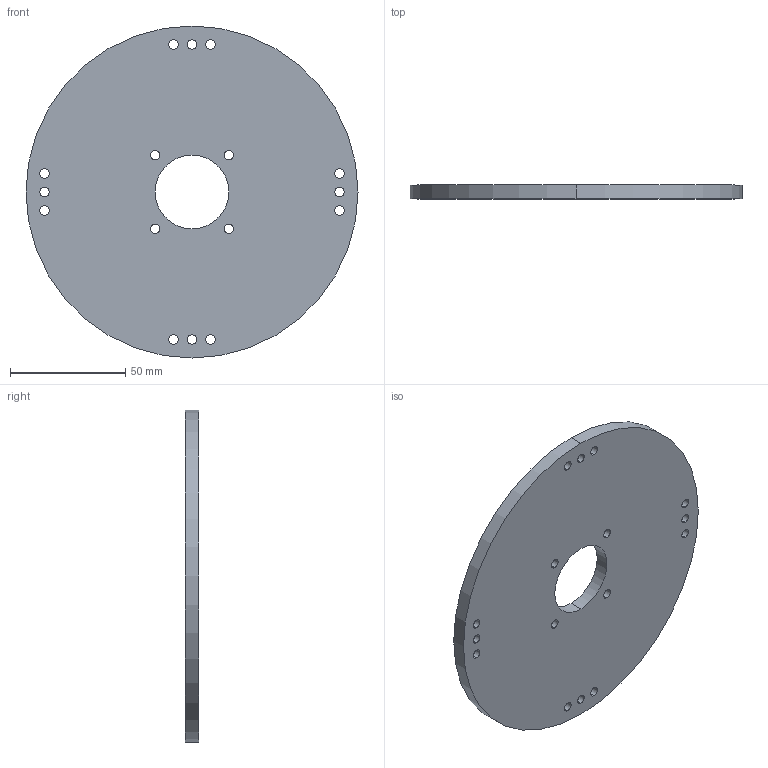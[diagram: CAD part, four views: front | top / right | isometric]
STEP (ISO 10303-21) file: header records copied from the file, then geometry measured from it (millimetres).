
FILE_DESCRIPTION (( 'STEP AP203' ), '1' );
FILE_NAME ('1920-0032-0144.STEP', '2021-05-27T18:33:40', ( '' ), ( '' ), 'SwSTEP 2.0', 'SolidWorks 2016', '' );
FILE_SCHEMA (( 'CONFIG_CONTROL_DESIGN' ));
Length unit declared in the file: millimetre
Products named in the file (1): 1920-0032-0144
Bounding box: 144 x 6 x 144 mm (x, y, z)
Volume: 91653.9 mm3; surface area: 35090.3 mm2
Topology: 1 solids, 1 shells, 38 faces, 108 edges, 72 vertices
Faces by surface type: cylinder 36, plane 2
Entity records: 1429 total; most frequent: DIRECTION 258, CARTESIAN_POINT 219, ORIENTED_EDGE 216, AXIS2_PLACEMENT_3D 111, EDGE_CURVE 108, CIRCLE 72, EDGE_LOOP 72, VERTEX_POINT 72
